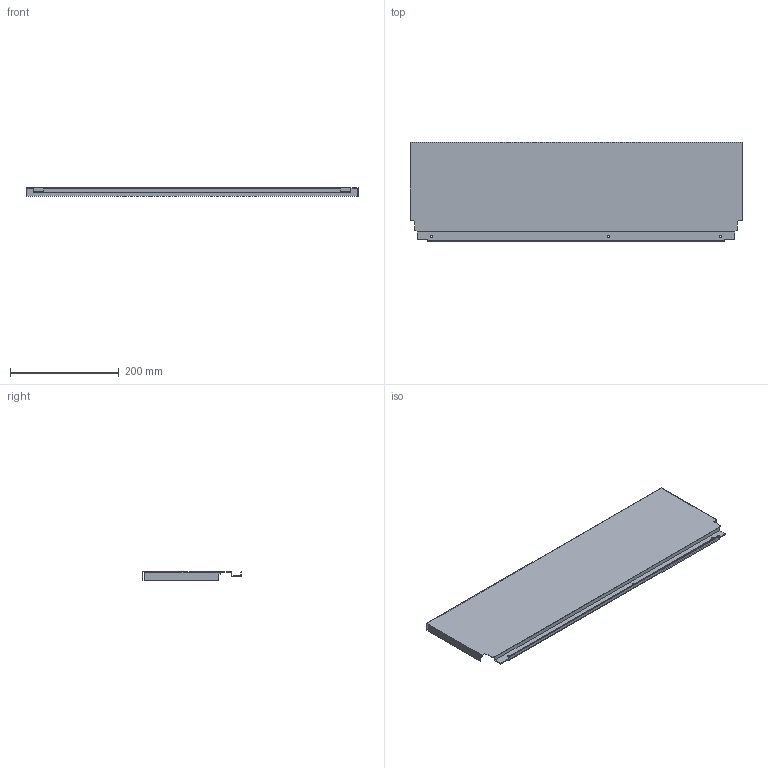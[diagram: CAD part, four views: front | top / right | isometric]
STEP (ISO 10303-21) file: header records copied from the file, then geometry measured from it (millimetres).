
FILE_DESCRIPTION (( 'STEP AP214' ), '1' );
FILE_NAME ('_DWD_XP Stahlrückwand_H182_KAB700_S19.step', '2010-07-08T12:58:08', ( 'grass' ), ( '' ), 'SwSTEP 2.0', 'SolidWorks 2010', '' );
FILE_SCHEMA (( 'AUTOMOTIVE_DESIGN' ));
Length unit declared in the file: millimetre
Products named in the file (1): _DWD_XP Stahlrückwand_H182_KAB700_S19
Bounding box: 611 x 182.49 x 16 mm (x, y, z)
Volume: 115001.8 mm3; surface area: 266471.7 mm2
Topology: 1 solids, 1 shells, 46 faces, 132 edges, 88 vertices
Faces by surface type: plane 40, cylinder 6
Entity records: 1534 total; most frequent: CARTESIAN_POINT 267, ORIENTED_EDGE 264, DIRECTION 238, EDGE_CURVE 132, VECTOR 120, LINE 120, VERTEX_POINT 88, AXIS2_PLACEMENT_3D 59
